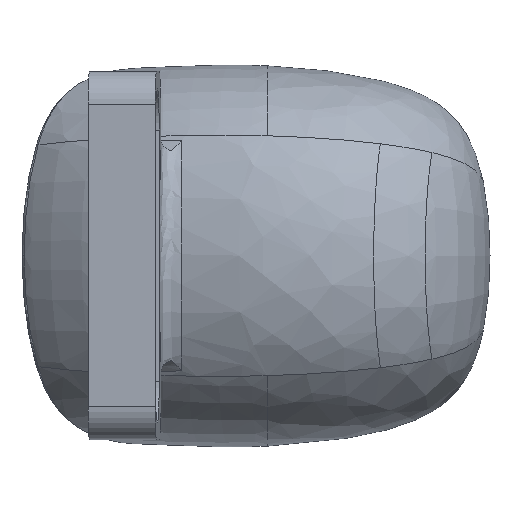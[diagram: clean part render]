
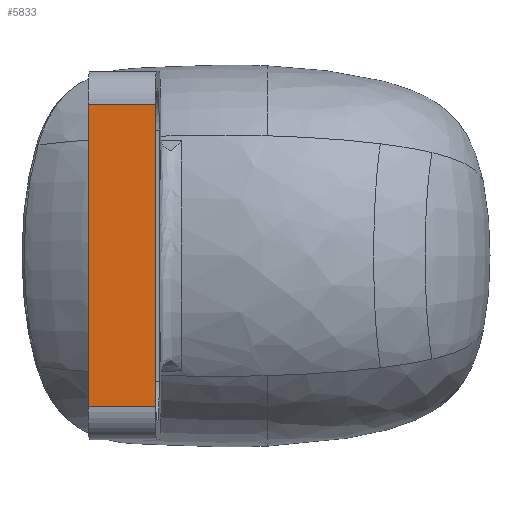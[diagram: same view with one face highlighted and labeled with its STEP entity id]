
A CAD part, top view. The second image highlights one B-rep face of the part: STEP entity #5833.
In plain terms, the highlighted planar face has unit normal (-0.046, 0, 0.999).
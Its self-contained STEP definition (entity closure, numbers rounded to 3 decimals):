
#1442=DIRECTION('',(-0.999,0.,-0.046));
#1443=VECTOR('',#1442,20.3);
#1444=CARTESIAN_POINT('',(-33.905,332.617,590.683));
#1445=LINE('',#1444,#1443);
#1446=DIRECTION('',(0.,-1.,0.));
#1447=VECTOR('',#1446,91.37);
#1448=CARTESIAN_POINT('',(-33.905,332.617,590.683));
#1449=LINE('',#1448,#1447);
#1450=DIRECTION('',(0.999,0.,0.046));
#1451=VECTOR('',#1450,20.3);
#1452=CARTESIAN_POINT('',(-54.184,241.247,589.757));
#1453=LINE('',#1452,#1451);
#1454=DIRECTION('',(0.,1.,0.));
#1455=VECTOR('',#1454,91.37);
#1456=CARTESIAN_POINT('',(-54.184,241.247,589.757));
#1457=LINE('',#1456,#1455);
#2194=CARTESIAN_POINT('',(-54.184,332.617,589.757));
#2196=VERTEX_POINT('',#2194);
#2200=CARTESIAN_POINT('',(-33.905,332.617,590.683));
#2201=VERTEX_POINT('',#2200);
#2218=CARTESIAN_POINT('',(-33.905,241.247,590.683));
#2220=VERTEX_POINT('',#2218);
#2224=CARTESIAN_POINT('',(-54.184,241.247,589.757));
#2225=VERTEX_POINT('',#2224);
#5821=CARTESIAN_POINT('',(-33.905,257.714,590.683));
#5822=DIRECTION('',(-0.046,0.,0.999));
#5823=DIRECTION('',(0.,1.,0.));
#5824=AXIS2_PLACEMENT_3D('',#5821,#5822,#5823);
#5825=PLANE('',#5824);
#5826=ORIENTED_EDGE('',*,*,#5816,.F.);
#5827=ORIENTED_EDGE('',*,*,#5462,.T.);
#5829=ORIENTED_EDGE('',*,*,#5828,.F.);
#5830=ORIENTED_EDGE('',*,*,#5584,.T.);
#5831=EDGE_LOOP('',(#5826,#5827,#5829,#5830));
#5832=FACE_OUTER_BOUND('',#5831,.F.);
#5833=ADVANCED_FACE('',(#5832),#5825,.T.);
#5462=EDGE_CURVE('',#2201,#2220,#1449,.T.);
#5584=EDGE_CURVE('',#2225,#2196,#1457,.T.);
#5816=EDGE_CURVE('',#2201,#2196,#1445,.T.);
#5828=EDGE_CURVE('',#2225,#2220,#1453,.T.);
